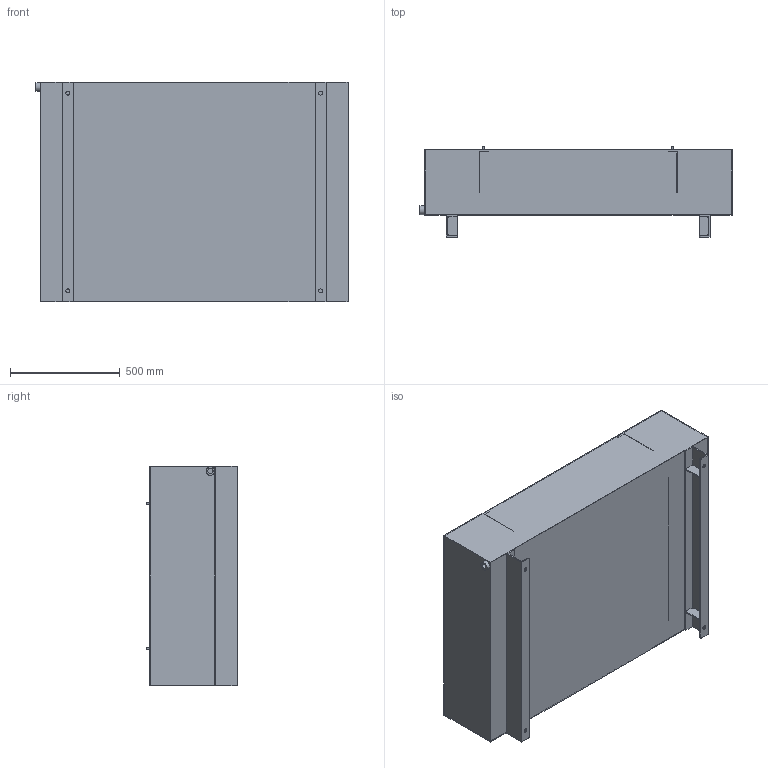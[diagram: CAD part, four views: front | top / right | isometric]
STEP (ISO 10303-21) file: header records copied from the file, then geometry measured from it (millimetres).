
FILE_DESCRIPTION (( 'STEP AP203' ), '1' );
FILE_NAME ('R1-068T MONOBLOC.STEP', '2015-06-18T10:11:01', ( 'rodrigue' ), ( 'Hewlett-Packard Company' ), 'SwSTEP 2.0', 'SolidWorks 2015', '' );
FILE_SCHEMA (( 'CONFIG_CONTROL_DESIGN' ));
Length unit declared in the file: millimetre
Products named in the file (1): R1-068T MONOBLOC
Bounding box: 1420 x 412 x 1000 mm (x, y, z)
Volume: 12944898 mm3; surface area: 7684366.3 mm2
Topology: 1 solids, 1 shells, 117 faces, 341 edges, 230 vertices
Faces by surface type: plane 98, cylinder 19
Full cylindrical faces by diameter (mm): 10 x4, 11 x4, 18 x4, 24 x1, 33 x1, 40 x1
Entity records: 3835 total; most frequent: CARTESIAN_POINT 658, ORIENTED_EDGE 636, DIRECTION 592, EDGE_CURVE 318, VECTOR 280, LINE 280, VERTEX_POINT 222, EDGE_LOOP 170
